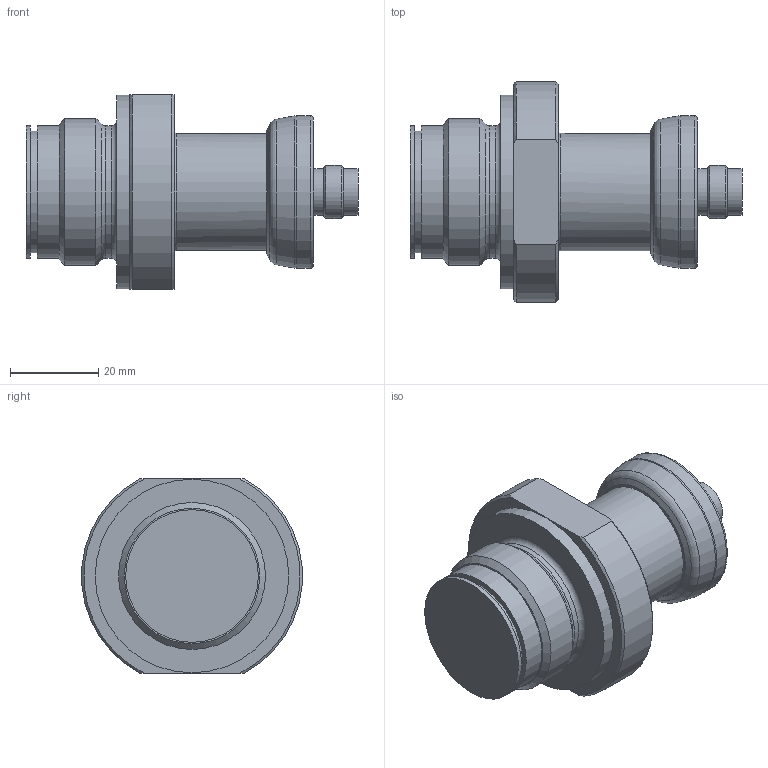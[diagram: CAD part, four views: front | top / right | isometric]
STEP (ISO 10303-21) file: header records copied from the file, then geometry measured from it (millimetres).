
FILE_DESCRIPTION(/* description */ (''),/* implementation_level */ '2;1');
FILE_NAME(/* name */ 'C:\daten\BDS inventor\12_DMP 331 with DSP\DMP331-11x-xxxx-x-x-M00-F01-x-000.stp',/* time_stamp */ '2020-10-02T13:20:29+02:00',/* author */ ('CZ1067'),/* organization */ (''),/* preprocessor_version */ 'ST-DEVELOPER v16.5',/* originating_system */ 'Autodesk Inventor 2017',/* authorisation */ '');
FILE_SCHEMA (('AUTOMOTIVE_DESIGN { 1 0 10303 214 3 1 1 }'));
Length unit declared in the file: millimetre
Products named in the file (1): DMP331-11x-xxxx-x-x-M00-F01-x-000_Obal_1
Bounding box: 75.1 x 49.83 x 44 mm (x, y, z)
Volume: 60774.5 mm3; surface area: 11743.7 mm2
Topology: 1 solids, 1 shells, 46 faces, 88 edges, 55 vertices
Faces by surface type: plane 15, cylinder 14, cone 10, torus 7
Full cylindrical faces by diameter (mm): 10.5 x2, 12 x1, 21.4 x1, 26.5 x1, 27.5 x1, 29.9 x1, 30 x2, 33.249 x1, 34.5 x1, 43.8 x1
Entity records: 1095 total; most frequent: DIRECTION 190, CARTESIAN_POINT 175, ORIENTED_EDGE 120, AXIS2_PLACEMENT_3D 91, EDGE_LOOP 82, EDGE_CURVE 60, VERTEX_POINT 52, FACE_OUTER_BOUND 46
